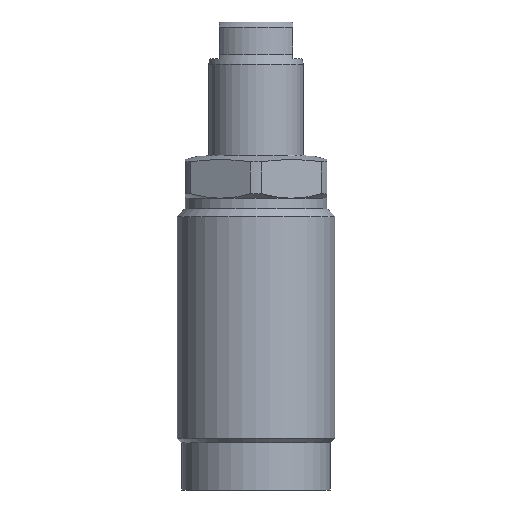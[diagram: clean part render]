
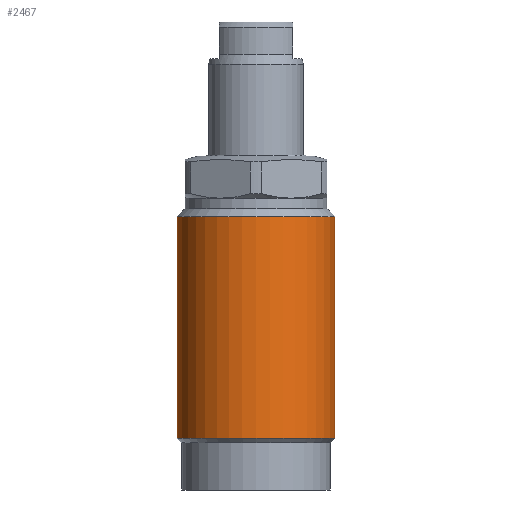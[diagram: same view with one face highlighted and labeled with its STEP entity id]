
A CAD part, front view. The second image highlights one B-rep face of the part: STEP entity #2467.
In plain terms, the highlighted cylindrical face has radius 15 mm (diameter 30 mm), a partial arc.
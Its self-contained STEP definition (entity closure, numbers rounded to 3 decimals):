
#98 = DIRECTION ( 'NONE',  ( 0., 0., 1. ) ) ;
#100 = FACE_OUTER_BOUND ( 'NONE', #565, .T. ) ;
#101 = CARTESIAN_POINT ( 'NONE',  ( 0., 0., 3.903 ) ) ;
#103 = CYLINDRICAL_SURFACE ( 'NONE', #1492, 15. ) ;
#104 = DIRECTION ( 'NONE',  ( 1., 0., 0. ) ) ;
#565 = EDGE_LOOP ( 'NONE', ( #2621, #2620, #2614, #2611 ) ) ;
#732 = VERTEX_POINT ( 'NONE', #2298 ) ;
#743 = VERTEX_POINT ( 'NONE', #2309 ) ;
#744 = VERTEX_POINT ( 'NONE', #2310 ) ;
#745 = VERTEX_POINT ( 'NONE', #2311 ) ;
#780 = EDGE_CURVE ( 'NONE', #743, #745, #2410, .T. ) ;
#781 = EDGE_CURVE ( 'NONE', #732, #744, #2415, .T. ) ;
#859 = EDGE_CURVE ( 'NONE', #743, #732, #1322, .T. ) ;
#860 = EDGE_CURVE ( 'NONE', #745, #744, #1324, .T. ) ;
#980 = VECTOR ( 'NONE', #2414, 1000. ) ;
#983 = VECTOR ( 'NONE', #2418, 1000. ) ;
#1308 = CARTESIAN_POINT ( 'NONE',  ( 0., 0., -53.65 ) ) ;
#1309 = DIRECTION ( 'NONE',  ( 0., 0., 1. ) ) ;
#1310 = DIRECTION ( 'NONE',  ( 1., 0., 0. ) ) ;
#1311 = CARTESIAN_POINT ( 'NONE',  ( 0., 0., -11.5 ) ) ;
#1312 = DIRECTION ( 'NONE',  ( 0., 0., 1. ) ) ;
#1313 = DIRECTION ( 'NONE',  ( 1., 0., 0. ) ) ;
#1322 = CIRCLE ( 'NONE', #1325, 15. ) ;
#1324 = CIRCLE ( 'NONE', #1327, 15. ) ;
#1325 = AXIS2_PLACEMENT_3D ( 'NONE', #1308, #1309, #1310 ) ;
#1327 = AXIS2_PLACEMENT_3D ( 'NONE', #1311, #1312, #1313 ) ;
#1492 = AXIS2_PLACEMENT_3D ( 'NONE', #101, #98, #104 ) ;
#2298 = CARTESIAN_POINT ( 'NONE',  ( 15., 0., -53.65 ) ) ;
#2309 = CARTESIAN_POINT ( 'NONE',  ( -15., 0., -53.65 ) ) ;
#2310 = CARTESIAN_POINT ( 'NONE',  ( 15., 0., -11.5 ) ) ;
#2311 = CARTESIAN_POINT ( 'NONE',  ( -15., 0., -11.5 ) ) ;
#2408 = CARTESIAN_POINT ( 'NONE',  ( -15., 0., 3.903 ) ) ;
#2410 = LINE ( 'NONE', #2408, #980 ) ;
#2414 = DIRECTION ( 'NONE',  ( 0., 0., 1. ) ) ;
#2415 = LINE ( 'NONE', #2417, #983 ) ;
#2417 = CARTESIAN_POINT ( 'NONE',  ( 15., 0., 3.903 ) ) ;
#2418 = DIRECTION ( 'NONE',  ( 0., 0., 1. ) ) ;
#2467 = ADVANCED_FACE ( 'NONE', ( #100 ), #103, .T. ) ;
#2611 = ORIENTED_EDGE ( 'NONE', *, *, #860, .F. ) ;
#2614 = ORIENTED_EDGE ( 'NONE', *, *, #781, .T. ) ;
#2620 = ORIENTED_EDGE ( 'NONE', *, *, #859, .T. ) ;
#2621 = ORIENTED_EDGE ( 'NONE', *, *, #780, .F. ) ;
